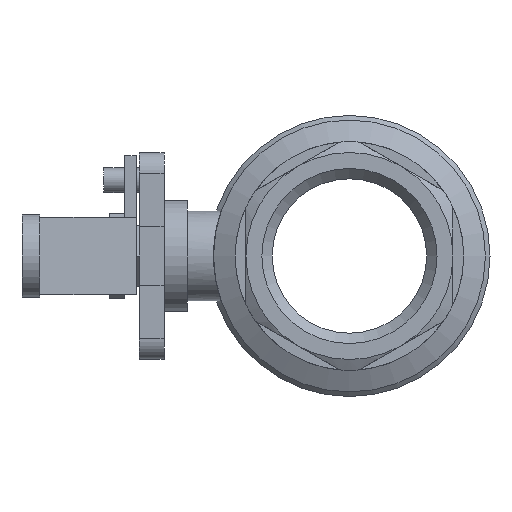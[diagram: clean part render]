
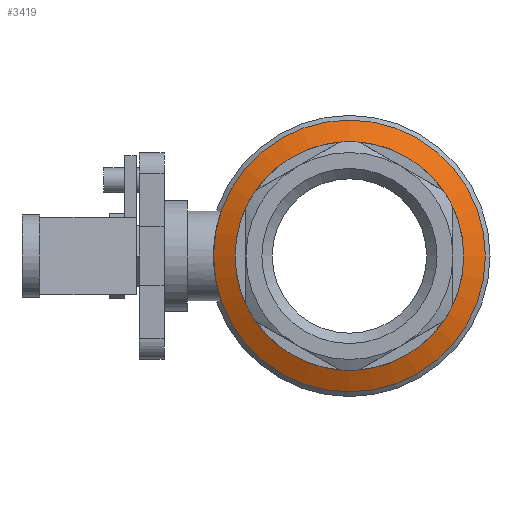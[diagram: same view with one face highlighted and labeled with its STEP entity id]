
A CAD part, left-side view. The second image highlights one B-rep face of the part: STEP entity #3419.
In plain terms, the highlighted conical face has half-angle 63.435 degrees and reference radius 37 mm.
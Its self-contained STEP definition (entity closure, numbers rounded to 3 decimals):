
#24 = CARTESIAN_POINT ( 'NONE',  ( -35., 0., 0. ) ) ;
#152 = CARTESIAN_POINT ( 'NONE',  ( -38.5, 0., 0. ) ) ;
#329 = EDGE_LOOP ( 'NONE', ( #2973 ) ) ;
#342 = DIRECTION ( 'NONE',  ( 0., 0., 1. ) ) ;
#493 = DIRECTION ( 'NONE',  ( 0., 0., 1. ) ) ;
#595 = FACE_OUTER_BOUND ( 'NONE', #2182, .T. ) ;
#780 = VERTEX_POINT ( 'NONE', #2494 ) ;
#792 = CIRCLE ( 'NONE', #2824, 37. ) ;
#1436 = FACE_BOUND ( 'NONE', #329, .T. ) ;
#1521 = VERTEX_POINT ( 'NONE', #3119 ) ;
#1755 = DIRECTION ( 'NONE',  ( 0., 0., -1. ) ) ;
#2062 = DIRECTION ( 'NONE',  ( 1., 0., 0. ) ) ;
#2068 = AXIS2_PLACEMENT_3D ( 'NONE', #24, #2212, #342 ) ;
#2182 = EDGE_LOOP ( 'NONE', ( #3291 ) ) ;
#2212 = DIRECTION ( 'NONE',  ( -1., 0., 0. ) ) ;
#2339 = DIRECTION ( 'NONE',  ( -1., 0., 0. ) ) ;
#2494 = CARTESIAN_POINT ( 'NONE',  ( -38.5, 0., 37. ) ) ;
#2824 = AXIS2_PLACEMENT_3D ( 'NONE', #152, #2339, #493 ) ;
#2973 = ORIENTED_EDGE ( 'NONE', *, *, #3378, .F. ) ;
#3119 = CARTESIAN_POINT ( 'NONE',  ( -35., 0., 44. ) ) ;
#3291 = ORIENTED_EDGE ( 'NONE', *, *, #3833, .T. ) ;
#3310 = CIRCLE ( 'NONE', #2068, 44. ) ;
#3378 = EDGE_CURVE ( 'NONE', #780, #780, #792, .T. ) ;
#3419 = ADVANCED_FACE ( 'NONE', ( #595, #1436 ), #3719, .T. ) ;
#3719 = CONICAL_SURFACE ( 'NONE', #3897, 37., 1.107 ) ;
#3833 = EDGE_CURVE ( 'NONE', #1521, #1521, #3310, .T. ) ;
#3897 = AXIS2_PLACEMENT_3D ( 'NONE', #3935, #2062, #1755 ) ;
#3935 = CARTESIAN_POINT ( 'NONE',  ( -38.5, 0., 0. ) ) ;
